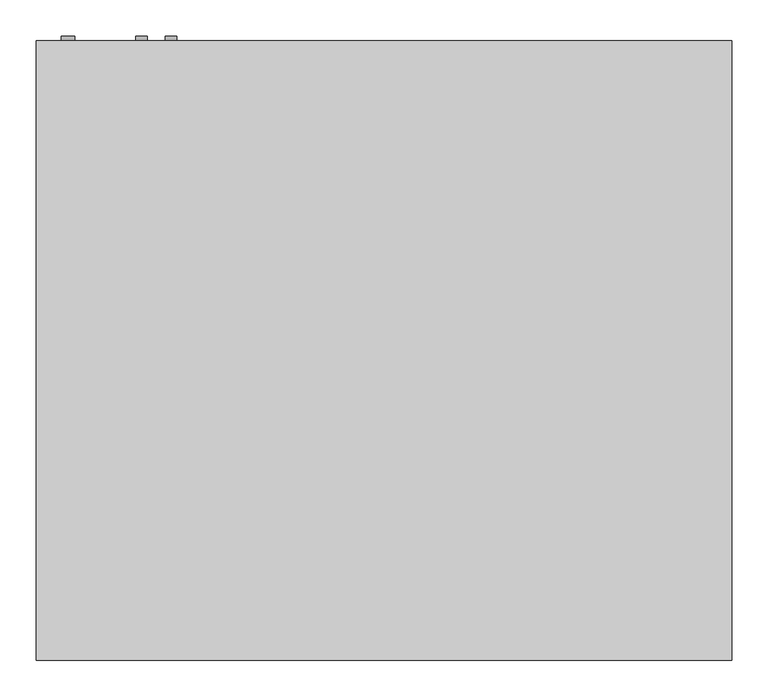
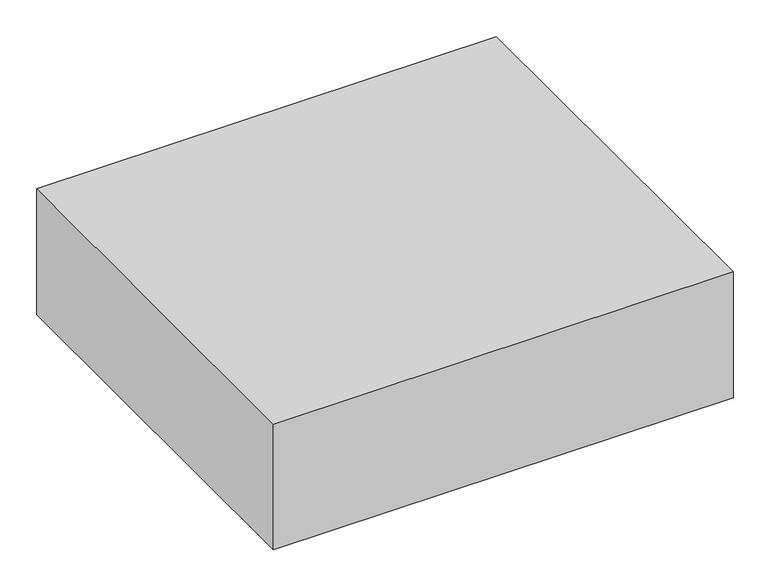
"""IFC4 building model written with IfcOpenShell, lengths in millimetres: proxy geometry, Exposed_Horizontal_Fan_Coil_Unit_-_42CGB_-_CARRIER_-_2-Pipe_Cool-EHeat_BS-BR_LH_2022 : Size 02 - 277v/60Hz/1Ph - 4 Row 2.0kW."""

from ifc_helpers import new_model, si_unit, point, frame, frame_2d, origin, place, context, project, spatial, polyline, circle_curve, trimmed, segment, composite_curve, outline, extrude, source, transform, mapped, element, save


def mechanical_equipment_0ee400d0(model_context):
    return source(origin(), model_context, "Body", "SweptSolid", [
        extrude(outline(polyline([(369.8875, -439.7375), (369.8875, -585.7875), (-65.0875, -585.7875), (-65.0875, -439.7375), (369.8875, -439.7375)])), frame((0.0, 0.0, -285.75), z_axis=(0.0, 0.0, 1.0), x_axis=(1.0, 0.0, 0.0)), (0.0, 0.0, 1.0), 6.35),
        extrude(outline(composite_curve([segment(trimmed(circle_curve(frame_2d((-60.325, -142.875)), 7.9375), [point((-60.325, -134.9375))], [point((-60.325, -150.8125))], False, "CARTESIAN"), True, "CONTINUOUS"), segment(trimmed(circle_curve(frame_2d((-60.325, -142.875)), 7.9375), [point((-60.325, -150.8125))], [point((-60.325, -134.9375))], False, "CARTESIAN"), True, "CONTINUOUS")], self_intersect=False)), frame((0.0, 192.0875, 0.0), z_axis=(0.0, 1.0, 0.0), x_axis=(0.0, 0.0, 1.0)), (0.0, 0.0, 1.0), 6.35),
        extrude(outline(composite_curve([segment(trimmed(circle_curve(frame_2d((-95.25, -184.15)), 7.9375), [point((-95.25, -176.2125))], [point((-95.25, -192.0875))], False, "CARTESIAN"), True, "CONTINUOUS"), segment(trimmed(circle_curve(frame_2d((-95.25, -184.15)), 7.9375), [point((-95.25, -192.0875))], [point((-95.25, -176.2125))], False, "CARTESIAN"), True, "CONTINUOUS")], self_intersect=False)), frame((0.0, 192.0875, 0.0), z_axis=(0.0, 1.0, 0.0), x_axis=(0.0, 0.0, 1.0)), (0.0, 0.0, 1.0), 6.35),
        extrude(outline(composite_curve([segment(trimmed(circle_curve(frame_2d((-260.35, -285.75)), 9.525), [point((-260.35, -276.225))], [point((-260.35, -295.275))], False, "CARTESIAN"), True, "CONTINUOUS"), segment(trimmed(circle_curve(frame_2d((-260.35, -285.75)), 9.525), [point((-260.35, -295.275))], [point((-260.35, -276.225))], False, "CARTESIAN"), True, "CONTINUOUS")], self_intersect=False)), frame((0.0, 192.0875, 0.0), z_axis=(0.0, 1.0, 0.0), x_axis=(0.0, 0.0, 1.0)), (0.0, 0.0, 1.0), 6.35),
        extrude(outline(polyline([(-330.2, 192.0875), (635.0, 192.0875), (635.0, -668.3375), (-330.2, -668.3375), (-330.2, 192.0875)])), frame((0.0, 0.0, -279.4), z_axis=(0.0, 0.0, 1.0), x_axis=(1.0, 0.0, 0.0)), (0.0, 0.0, 1.0), 279.4),
        extrude(outline(polyline([(450.85, 115.8875), (450.85, -138.1125), (-146.05, -138.1125), (-146.05, 115.8875), (450.85, 115.8875)])), frame((0.0, 0.0, -285.75), z_axis=(0.0, 0.0, 1.0), x_axis=(1.0, 0.0, 0.0)), (0.0, 0.0, 1.0), 6.35),
    ])


if __name__ == "__main__":
    model = new_model("IFC4")
    model_context = context("Model", 3, world=origin())
    ifc_project = project(units=[si_unit("LENGTHUNIT", "METRE", prefix="MILLI")], contexts=[model_context])
    site = spatial("IfcSite", under=ifc_project)
    building = spatial("IfcBuilding", under=site)
    placement = place(None, origin())
    mechanical_equipment_shape = mechanical_equipment_0ee400d0(model_context)
    element("IfcBuildingElementProxy", 1, Name="Exposed_Horizontal_Fan_Coil_Unit_-_42CGB_-_CARRIER_-_2-Pipe_Cool-EHeat_BS-BR_LH_2022 : Size 02 - 277v/60Hz/1Ph - 4 Row 2.0kW", ObjectType="Exposed_Horizontal_Fan_Coil_Unit_-_42CGB_-_CARRIER_-_2-Pipe_Cool-EHeat_BS-BR_LH_2022 : Size 02 - 277v/60Hz/1Ph - 4 Row 2.0kW", at=placement, inside=building, context=model_context, shape_type="MappedRepresentation", body=[
        mapped(mechanical_equipment_shape, transform((0.0, 0.0, 0.0), x_axis=(1.0, 0.0, 0.0), y_axis=(0.0, 1.0, 0.0), z_axis=(0.0, 0.0, 1.0))),
    ])
    save(model, "model.ifc")
